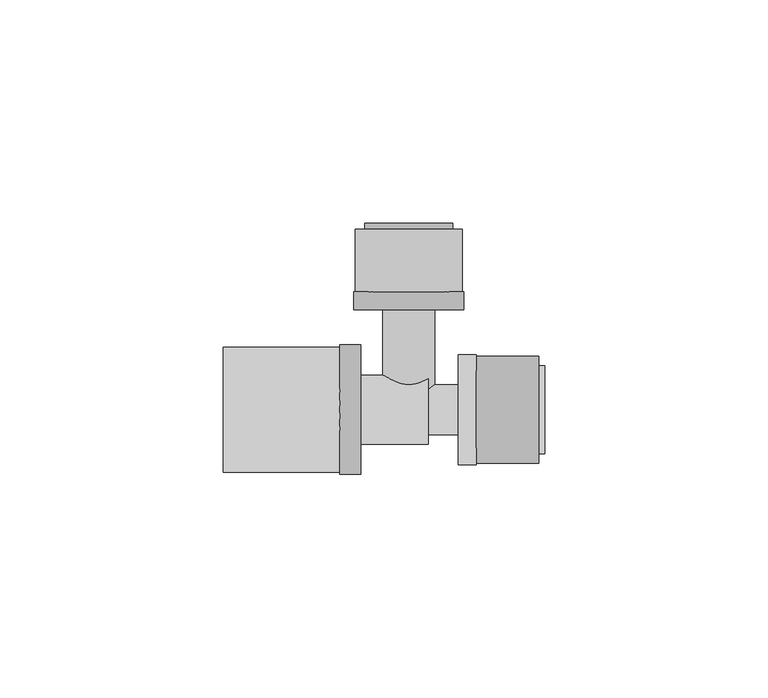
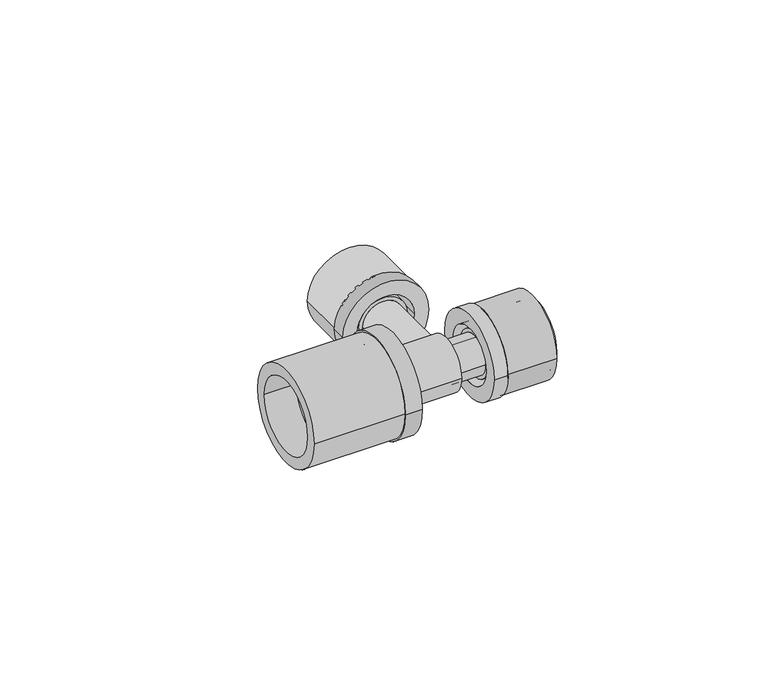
"""IFC4 building model written with IfcOpenShell, lengths in millimetres: pipe fitting geometry, FASTLOC_T-piece_LX : FSL T-Piece LX CZ."""

import ifcopenshell
import ifcopenshell.guid

model = None  # the IFC model being written
_history = None  # IfcOwnerHistory: only IFC2X3 demands one
_inside = {}  # id of a spatial element -> (the spatial element, [elements in it])
_under = {}  # id of a project, library or spatial element -> (it, [spatial elements below it])
_declared = {}  # id of a project -> (the project, [libraries it declares])
_typed = {}  # id of a type object -> (the type object, [elements of that type])
_made_of = {}  # id of a material, layer set ... -> (it, [elements and type objects made of it])


def new_model(schema):
    """Start an empty IFC model of exactly this schema.

    Asked for "IFC4X3", IfcOpenShell would pick the latest addendum, in which some entities
    have other attributes; the version numbers below select the first issue.
    IFC2X3 requires an IfcOwnerHistory on every rooted entity: one is made here for all.
    """
    global model, _history
    if schema == "IFC4X3":
        model = ifcopenshell.file(schema_version=(4, 3, 0, 0))
    else:
        model = ifcopenshell.file(schema=schema)
    _inside.clear()
    _under.clear()
    _declared.clear()
    _typed.clear()
    _made_of.clear()
    _history = None
    if model.schema == "IFC2X3":
        org = make("IfcOrganization", Name="unknown")
        user = make(
            "IfcPersonAndOrganization",
            ThePerson=make("IfcPerson", FamilyName="unknown"),
            TheOrganization=org,
        )
        app = make(
            "IfcApplication",
            ApplicationDeveloper=org,
            Version="unknown",
            ApplicationFullName="unknown",
            ApplicationIdentifier="unknown",
        )
        _history = make(
            "IfcOwnerHistory",
            OwningUser=user,
            OwningApplication=app,
            ChangeAction="ADDED",
            CreationDate=0,
        )
    return model


def make(cls, **values):
    """One entity of the class cls with the attributes given. An attribute that is None is left unset."""
    return model.create_entity(
        cls, **{name: value for name, value in values.items() if value is not None}
    )


def rooted(cls, **values):
    """An entity with a GlobalId (a new one), such as an element, a storey or a relation."""
    return make(cls, GlobalId=ifcopenshell.guid.new(), OwnerHistory=_history, **values)


def si_unit(unit_type, name, prefix=None):
    """IfcSIUnit, for example si_unit("LENGTHUNIT", "METRE", prefix="MILLI")."""
    return make("IfcSIUnit", UnitType=unit_type, Prefix=prefix, Name=name)


def assignment(units):
    """IfcUnitAssignment: the units of a project."""
    return None if units is None else make("IfcUnitAssignment", Units=units)


def point(xyz):
    """IfcCartesianPoint."""
    return None if xyz is None else make("IfcCartesianPoint", Coordinates=xyz)


def direction(xyz):
    """IfcDirection."""
    return None if xyz is None else make("IfcDirection", DirectionRatios=xyz)


def frame(location, z_axis=None, x_axis=None):
    """IfcAxis2Placement3D, a coordinate frame: its origin and axes. An axis left out is left unset."""
    return make(
        "IfcAxis2Placement3D",
        Location=point(location),
        Axis=direction(z_axis),
        RefDirection=direction(x_axis),
    )


def frame_2d(location, x_axis=None):
    """IfcAxis2Placement2D, a coordinate frame in the plane: its origin and x axis."""
    return make(
        "IfcAxis2Placement2D", Location=point(location), RefDirection=direction(x_axis)
    )


def origin():
    """The frame at (0, 0, 0) with its axes left unset."""
    return frame((0.0, 0.0, 0.0))


def origin_2d():
    """The frame at (0, 0) in the plane with its x axis left unset."""
    return frame_2d((0.0, 0.0))


def place(relative_to, where):
    """IfcLocalPlacement: puts the frame where relative to a parent placement (None: the world)."""
    return make(
        "IfcLocalPlacement", PlacementRelTo=relative_to, RelativePlacement=where
    )


def context(
    kind, dimensions, precision=None, world=None, true_north=None, identifier=None
):
    """IfcGeometricRepresentationContext, for example the 3D "Model" context."""
    return make(
        "IfcGeometricRepresentationContext",
        ContextIdentifier=identifier,
        ContextType=kind,
        CoordinateSpaceDimension=dimensions,
        Precision=precision,
        WorldCoordinateSystem=world,
        TrueNorth=true_north,
    )


def project(units=None, contexts=None):
    """IfcProject with its units and contexts."""
    return rooted(
        "IfcProject",
        Name="project",
        RepresentationContexts=contexts,
        UnitsInContext=assignment(units),
    )


def spatial(cls, under=None, at=None, **own):
    """A site, building, storey or space (cls), placed at a placement, below another one or the project."""
    s = rooted(cls, ObjectPlacement=at, **own)
    if under is not None:
        _under.setdefault(under.id(), (under, []))[1].append(s)
    return s


def polyline(points):
    """IfcPolyline through the points."""
    return make("IfcPolyline", Points=[point(p) for p in points])


def circle_curve(where, radius):
    """IfcCircle in the frame where."""
    return make("IfcCircle", Position=where, Radius=radius)


def trimmed(basis, trim1, trim2, sense, master):
    """IfcTrimmedCurve: the piece of a basis curve between two trims."""
    return make(
        "IfcTrimmedCurve",
        BasisCurve=basis,
        Trim1=trim1,
        Trim2=trim2,
        SenseAgreement=sense,
        MasterRepresentation=master,
    )


def segment(curve, same_sense, transition):
    """IfcCompositeCurveSegment."""
    return make(
        "IfcCompositeCurveSegment",
        Transition=transition,
        SameSense=same_sense,
        ParentCurve=curve,
    )


def composite_curve(segments, self_intersect=None):
    """IfcCompositeCurve: segments joined end to end."""
    return make("IfcCompositeCurve", Segments=segments, SelfIntersect=self_intersect)


def outline(outer, holes=None, kind="AREA"):
    """IfcArbitraryClosedProfileDef: a profile drawn as a closed curve; with holes, ...WithVoids."""
    if holes is None:
        return make("IfcArbitraryClosedProfileDef", ProfileType=kind, OuterCurve=outer)
    return make(
        "IfcArbitraryProfileDefWithVoids",
        ProfileType=kind,
        OuterCurve=outer,
        InnerCurves=holes,
    )


def extrude(swept, where, along, depth):
    """IfcExtrudedAreaSolid: the profile swept, set in the frame where, extruded along a direction by depth."""
    return make(
        "IfcExtrudedAreaSolid",
        SweptArea=swept,
        Position=where,
        ExtrudedDirection=direction(along),
        Depth=depth,
    )


def shape(context_of_items, identifier, shape_type, items):
    """IfcShapeRepresentation: the items that make up one representation, for example the "Body"."""
    return make(
        "IfcShapeRepresentation",
        ContextOfItems=context_of_items,
        RepresentationIdentifier=identifier,
        RepresentationType=shape_type,
        Items=items,
    )


def source(mapping_origin, context_of_items, identifier, shape_type, items):
    """IfcRepresentationMap: a shape defined once, which mapped items show again and again."""
    return make(
        "IfcRepresentationMap",
        MappingOrigin=mapping_origin,
        MappedRepresentation=shape(context_of_items, identifier, shape_type, items),
    )


def transform(
    local_origin,
    x_axis=None,
    y_axis=None,
    z_axis=None,
    scale=None,
    scale2=None,
    scale3=None,
    uniform=True,
):
    """IfcCartesianTransformationOperator3D, or its non-uniform kind. x_axis, y_axis, z_axis: its Axis1, 2, 3."""
    if uniform:
        return make(
            "IfcCartesianTransformationOperator3D",
            Axis1=direction(x_axis),
            Axis2=direction(y_axis),
            LocalOrigin=point(local_origin),
            Scale=scale,
            Axis3=direction(z_axis),
        )
    return make(
        "IfcCartesianTransformationOperator3DnonUniform",
        Axis1=direction(x_axis),
        Axis2=direction(y_axis),
        LocalOrigin=point(local_origin),
        Scale=scale,
        Axis3=direction(z_axis),
        Scale2=scale2,
        Scale3=scale3,
    )


def mapped(mapping_source, mapping_target):
    """IfcMappedItem: shows the shape of a source again, moved by a transform."""
    return make(
        "IfcMappedItem", MappingSource=mapping_source, MappingTarget=mapping_target
    )


def made_of(thing, what):
    """Note that an element or type object is made of a material, layer set ...; save() writes the relation."""
    if what is not None:
        _made_of.setdefault(what.id(), (what, []))[1].append(thing)
    return thing


def element(
    cls,
    number,
    at=None,
    inside=None,
    cuts=None,
    type_object=None,
    material=None,
    context=None,
    identifier="Body",
    shape_type=None,
    held_by="IfcProductDefinitionShape",
    body=None,
    shapes=None,
    **own,
):
    """One element of the class cls, such as IfcWall. Its Tag is "e" and its number.

    at: its placement. inside: the storey or other place that contains it. cuts: it is an
    opening in that element (IfcRelVoidsElement). A single representation is given by context,
    identifier, shape_type and body (its items); several are given by shapes. held_by: the class
    of the entity that holds the representations. save() writes the other relations.
    """
    e = rooted(cls, Tag="e%d" % number, ObjectPlacement=at, **own)
    if body is not None:
        shapes = [shape(context, identifier, shape_type, body)]
    if shapes is not None:
        e.Representation = make(held_by, Representations=shapes)
    if inside is not None:
        _inside.setdefault(inside.id(), (inside, []))[1].append(e)
    if cuts is not None:
        rooted(
            "IfcRelVoidsElement", RelatingBuildingElement=cuts, RelatedOpeningElement=e
        )
    if type_object is not None:
        _typed.setdefault(type_object.id(), (type_object, []))[1].append(e)
    return made_of(e, material)


def aggregate(whole, parts):
    """IfcRelAggregates: a whole, such as a stair, and the parts it consists of."""
    return rooted("IfcRelAggregates", RelatingObject=whole, RelatedObjects=parts)


def save(model, path):
    """Write the relations noted so far, then the file.

    IfcRelAggregates (storeys below a building ...), IfcRelContainedInSpatialStructure (elements
    in a storey), IfcRelDefinesByType, IfcRelAssociatesMaterial and IfcRelDeclares: one each for
    every whole, place, type object, material and project.
    """
    for whole, parts in _under.values():
        aggregate(whole, parts)
    for where, things in _inside.values():
        rooted(
            "IfcRelContainedInSpatialStructure",
            RelatedElements=things,
            RelatingStructure=where,
        )
    for kind, things in _typed.values():
        rooted("IfcRelDefinesByType", RelatedObjects=things, RelatingType=kind)
    for what, things in _made_of.values():
        rooted("IfcRelAssociatesMaterial", RelatedObjects=things, RelatingMaterial=what)
    for by, libraries in _declared.values():
        rooted("IfcRelDeclares", RelatingContext=by, RelatedDefinitions=libraries)
    model.write(path)


def plane_surface(at):
    """IfcPlane: the flat surface through the origin of the frame at, square to its z axis."""
    return make("IfcPlane", Position=at)


def cylinder_surface(at, radius):
    """IfcCylindricalSurface: all points at the distance radius from the z axis of the frame at."""
    return make("IfcCylindricalSurface", Position=at, Radius=radius)


def revolved_surface(curve, axis_point, axis_direction):
    """IfcSurfaceOfRevolution: the curve turned about the line through axis_point along axis_direction."""
    return make(
        "IfcSurfaceOfRevolution",
        SweptCurve=make("IfcArbitraryOpenProfileDef", ProfileType="CURVE", Curve=curve),
        AxisPosition=make("IfcAxis1Placement", Location=point(axis_point), Axis=direction(axis_direction)),
    )


def advanced_brep(points, edges, surfaces, faces):
    """IfcAdvancedBrep: a solid bounded by faces that lie on surfaces and meet in shared edges.

    An edge is (start, end): straight between two places in points (the first is 0);
    or (start, end, curve); or (start, end, curve, False) where it runs against its curve.
    A face is (place in surfaces, loops), or (place, loops, False) where it looks against
    its surface's normal. A loop lists edges by number (the first is 1), with a minus sign
    where the edge is run from its end to its start. The first loop is the outer one.
    """
    corners = [point(p) for p in points]
    vertices = [make("IfcVertexPoint", VertexGeometry=c) for c in corners]
    made = []
    for start, end, *more in edges:
        made.append(
            make(
                "IfcEdgeCurve",
                EdgeStart=vertices[start],
                EdgeEnd=vertices[end],
                EdgeGeometry=more[0] if more else make("IfcPolyline", Points=[corners[start], corners[end]]),
                SameSense=more[1] if len(more) > 1 else True,
            )
        )
    hull = []
    for where, loops, *sense in faces:
        bounds = []
        for j, loop in enumerate(loops):
            ring = [make("IfcOrientedEdge", EdgeElement=made[abs(k) - 1], Orientation=k > 0) for k in loop]
            bounds.append(
                make(
                    "IfcFaceOuterBound" if j == 0 else "IfcFaceBound",
                    Bound=make("IfcEdgeLoop", EdgeList=ring),
                    Orientation=True,
                )
            )
        hull.append(make("IfcAdvancedFace", Bounds=bounds, FaceSurface=surfaces[where], SameSense=sense[0] if sense else True))
    return make("IfcAdvancedBrep", Outer=make("IfcClosedShell", CfsFaces=hull))


def pipe_fitting_8fb58d5f(model_context):
    return source(origin(), model_context, "Body", "SolidModel", [
        extrude(outline(composite_curve([segment(trimmed(circle_curve(origin_2d(), 12.0), [point((-12.0, 0.0))], [point((12.0, 0.0))], False, "CARTESIAN"), True, "CONTINUOUS"), segment(trimmed(circle_curve(origin_2d(), 12.0), [point((12.0, 0.0))], [point((-12.0, 0.0))], False, "CARTESIAN"), True, "CONTINUOUS")], self_intersect=False), holes=[composite_curve([segment(trimmed(circle_curve(origin_2d(), 8.85), [point((-8.85, 0.0))], [point((8.85, 0.0))], True, "CARTESIAN"), True, "CONTINUOUS"), segment(trimmed(circle_curve(origin_2d(), 8.85), [point((8.85, 0.0))], [point((-8.85, 0.0))], True, "CARTESIAN"), True, "CONTINUOUS")], self_intersect=False)]), frame((15.1, 0.0, 0.0), z_axis=(1.0, 0.0, 0.0), x_axis=(0.0, 1.0, 0.0)), (0.0, 0.0, 1.0), 14.0),
        advanced_brep(
        [(15.1, 12.35, 0.0), (15.1, -12.35, 0.0), (11.1, -12.35, 0.0), (11.1, 12.35, 0.0), (30.4, 9.85, 0.0), (30.4, -9.85, 0.0), (15.1, -9.85, 0.0), (15.1, 9.85, 0.0), (11.1, 8.15, 0.0), (11.1, -8.15, 0.0), (30.4, -8.15, 0.0), (30.4, 8.15, 0.0)],
        [
            (0, 1, circle_curve(frame((15.1, 0.0, 0.0), z_axis=(-1.0, 0.0, 0.0), x_axis=(0.0, -1.0, 0.0)), 12.35)),
            (1, 2),
            (2, 3, circle_curve(frame((11.1, 0.0, 0.0), z_axis=(1.0, 0.0, 0.0), x_axis=(0.0, -1.0, 0.0)), 12.35)),
            (3, 0),
            (4, 5, circle_curve(frame((30.4, 0.0, 0.0), z_axis=(-1.0, 0.0, 0.0), x_axis=(0.0, -1.0, 0.0)), 9.85)),
            (5, 6),
            (6, 7, circle_curve(frame((15.1, 0.0, 0.0), z_axis=(1.0, 0.0, 0.0), x_axis=(0.0, -1.0, 0.0)), 9.85)),
            (7, 4),
            (8, 9, circle_curve(frame((11.1, 0.0, 0.0), z_axis=(-1.0, 0.0, 0.0), x_axis=(0.0, -1.0, 0.0)), 8.15)),
            (9, 10),
            (10, 11, circle_curve(frame((30.4, 0.0, 0.0), z_axis=(1.0, 0.0, 0.0), x_axis=(0.0, -1.0, 0.0)), 8.15)),
            (11, 8),
            (1, 0, circle_curve(frame((15.1, 0.0, 0.0), z_axis=(-1.0, 0.0, 0.0), x_axis=(0.0, 1.0, 0.0)), 12.35)),
            (3, 2, circle_curve(frame((11.1, 0.0, 0.0), z_axis=(1.0, 0.0, 0.0), x_axis=(0.0, 1.0, 0.0)), 12.35)),
            (6, 7, circle_curve(frame((15.1, 0.0, 0.0), z_axis=(-1.0, 0.0, 0.0), x_axis=(0.0, 1.0, 0.0)), 9.85)),
            (5, 4, circle_curve(frame((30.4, 0.0, 0.0), z_axis=(-1.0, 0.0, 0.0), x_axis=(0.0, 1.0, 0.0)), 9.85)),
            (10, 11, circle_curve(frame((30.4, 0.0, 0.0), z_axis=(-1.0, 0.0, 0.0), x_axis=(0.0, 1.0, 0.0)), 8.15)),
            (9, 8, circle_curve(frame((11.1, 0.0, 0.0), z_axis=(-1.0, 0.0, 0.0), x_axis=(0.0, 1.0, 0.0)), 8.15)),
        ],
        [
            cylinder_surface(frame((11.1, 0.0, 0.0), z_axis=(1.0, 0.0, 0.0), x_axis=(0.0, -1.0, 0.0)), 12.35),
            cylinder_surface(frame((11.1, 0.0, 0.0), z_axis=(1.0, 0.0, 0.0), x_axis=(0.0, -1.0, 0.0)), 9.85),
            revolved_surface(polyline([(30.4, -8.15, 0.0), (11.1, -8.15, 0.0)]), (11.1, 0.0, 0.0), (1.0, 0.0, 0.0)),
            cylinder_surface(frame((11.1, 0.0, 0.0), z_axis=(1.0, 0.0, 0.0), x_axis=(0.0, 1.0, 0.0)), 12.35),
            plane_surface(frame((15.1, 0.0, 0.0), z_axis=(1.0, 0.0, 0.0), x_axis=(0.0, 1.0, 0.0))),
            cylinder_surface(frame((11.1, 0.0, 0.0), z_axis=(1.0, 0.0, 0.0), x_axis=(0.0, 1.0, 0.0)), 9.85),
            plane_surface(frame((30.4, 0.0, 0.0), z_axis=(1.0, 0.0, 0.0), x_axis=(0.0, 1.0, 0.0))),
            revolved_surface(polyline([(30.4, 8.15, 0.0), (11.1, 8.15, 0.0)]), (11.1, 0.0, 0.0), (1.0, 0.0, 0.0)),
            plane_surface(frame((11.1, 0.0, 0.0), z_axis=(-1.0, 0.0, 0.0), x_axis=(0.0, 1.0, 0.0))),
        ],
        [
            (0, [[1, 2, 3, 4]]),
            (1, [[5, 6, 7, 8]]),
            (2, [[9, 10, 11, 12]]),
            (3, [[13, -4, 14, -2]]),
            (4, [[-13, -1], [15, -7]]),
            (5, [[16, -8, -15, -6]]),
            (6, [[-16, -5], [17, -11]]),
            (7, [[18, -12, -17, -10]]),
            (8, [[-14, -3], [-18, -9]]),
        ],
    ),
        extrude(outline(composite_curve([segment(trimmed(circle_curve(origin_2d(), 14.0), [point((14.0, 0.0))], [point((-14.0, 0.0))], False, "CARTESIAN"), True, "CONTINUOUS"), segment(trimmed(circle_curve(origin_2d(), 14.0), [point((-14.0, 0.0))], [point((14.0, 0.0))], False, "CARTESIAN"), True, "CONTINUOUS")], self_intersect=False), holes=[composite_curve([segment(trimmed(circle_curve(origin_2d(), 10.7), [point((10.7, 0.0))], [point((-10.7, 0.0))], True, "CARTESIAN"), True, "CONTINUOUS"), segment(trimmed(circle_curve(origin_2d(), 10.7), [point((-10.7, 0.0))], [point((10.7, 0.0))], True, "CARTESIAN"), True, "CONTINUOUS")], self_intersect=False)]), frame((-41.5, 0.0, 0.0), z_axis=(1.0, 0.0, 0.0), x_axis=(0.0, 1.0, 0.0)), (0.0, 0.0, 1.0), 26.0),
        advanced_brep(
        [(-15.5, -14.5, 0.0), (-15.5, 14.5, 0.0), (-10.8, 14.5, 0.0), (-10.8, -14.5, 0.0), (-32.5, -11.85, 0.0), (-32.5, 11.85, 0.0), (-15.5, 11.85, 0.0), (-15.5, -11.85, 0.0), (-10.8, -10.15, 0.0), (-10.8, 10.15, 0.0), (-32.5, 10.15, 0.0), (-32.5, -10.15, 0.0)],
        [
            (0, 1, circle_curve(frame((-15.5, 0.0, 0.0), z_axis=(1.0, 0.0, 0.0), x_axis=(0.0, 1.0, 0.0)), 14.5)),
            (1, 2),
            (2, 3, circle_curve(frame((-10.8, 0.0, 0.0), z_axis=(-1.0, 0.0, 0.0), x_axis=(0.0, 1.0, 0.0)), 14.5)),
            (3, 0),
            (4, 5, circle_curve(frame((-32.5, 0.0, 0.0), z_axis=(1.0, 0.0, 0.0), x_axis=(0.0, 1.0, 0.0)), 11.85)),
            (5, 6),
            (6, 7, circle_curve(frame((-15.5, 0.0, 0.0), z_axis=(-1.0, 0.0, 0.0), x_axis=(0.0, 1.0, 0.0)), 11.85)),
            (7, 4),
            (8, 9, circle_curve(frame((-10.8, 0.0, 0.0), z_axis=(1.0, 0.0, 0.0), x_axis=(0.0, 1.0, 0.0)), 10.15)),
            (9, 10),
            (10, 11, circle_curve(frame((-32.5, 0.0, 0.0), z_axis=(-1.0, 0.0, 0.0), x_axis=(0.0, 1.0, 0.0)), 10.15)),
            (11, 8),
            (1, 0, circle_curve(frame((-15.5, 0.0, 0.0), z_axis=(1.0, 0.0, 0.0), x_axis=(0.0, -1.0, 0.0)), 14.5)),
            (3, 2, circle_curve(frame((-10.8, 0.0, 0.0), z_axis=(-1.0, 0.0, 0.0), x_axis=(0.0, -1.0, 0.0)), 14.5)),
            (6, 7, circle_curve(frame((-15.5, 0.0, 0.0), z_axis=(1.0, 0.0, 0.0), x_axis=(0.0, -1.0, 0.0)), 11.85)),
            (5, 4, circle_curve(frame((-32.5, 0.0, 0.0), z_axis=(1.0, 0.0, 0.0), x_axis=(0.0, -1.0, 0.0)), 11.85)),
            (10, 11, circle_curve(frame((-32.5, 0.0, 0.0), z_axis=(1.0, 0.0, 0.0), x_axis=(0.0, -1.0, 0.0)), 10.15)),
            (9, 8, circle_curve(frame((-10.8, 0.0, 0.0), z_axis=(1.0, 0.0, 0.0), x_axis=(0.0, -1.0, 0.0)), 10.15)),
        ],
        [
            cylinder_surface(frame((-10.8, 0.0, 0.0), z_axis=(-1.0, 0.0, 0.0), x_axis=(0.0, 1.0, 0.0)), 14.5),
            cylinder_surface(frame((-10.8, 0.0, 0.0), z_axis=(-1.0, 0.0, 0.0), x_axis=(0.0, 1.0, 0.0)), 11.85),
            revolved_surface(polyline([(-32.5, 10.15, 0.0), (-10.8, 10.15, 0.0)]), (-10.8, 0.0, 0.0), (-1.0, 0.0, 0.0)),
            cylinder_surface(frame((-10.8, 0.0, 0.0), z_axis=(-1.0, 0.0, 0.0), x_axis=(0.0, -1.0, 0.0)), 14.5),
            plane_surface(frame((-15.5, 0.0, 0.0), z_axis=(-1.0, 0.0, 0.0), x_axis=(0.0, -1.0, 0.0))),
            cylinder_surface(frame((-10.8, 0.0, 0.0), z_axis=(-1.0, 0.0, 0.0), x_axis=(0.0, -1.0, 0.0)), 11.85),
            plane_surface(frame((-32.5, 0.0, 0.0), z_axis=(-1.0, 0.0, 0.0), x_axis=(0.0, -1.0, 0.0))),
            revolved_surface(polyline([(-32.5, -10.15, 0.0), (-10.8, -10.15, 0.0)]), (-10.8, 0.0, 0.0), (-1.0, 0.0, 0.0)),
            plane_surface(frame((-10.8, 0.0, 0.0), z_axis=(1.0, 0.0, 0.0), x_axis=(0.0, -1.0, 0.0))),
        ],
        [
            (0, [[1, 2, 3, 4]]),
            (1, [[5, 6, 7, 8]]),
            (2, [[9, 10, 11, 12]]),
            (3, [[13, -4, 14, -2]]),
            (4, [[-13, -1], [15, -7]]),
            (5, [[16, -8, -15, -6]]),
            (6, [[-16, -5], [17, -11]]),
            (7, [[18, -12, -17, -10]]),
            (8, [[-14, -3], [-18, -9]]),
        ],
    ),
        extrude(outline(composite_curve([segment(trimmed(circle_curve(origin_2d(), 12.0), [point((0.0, 12.0))], [point((0.0, -12.0))], False, "CARTESIAN"), True, "CONTINUOUS"), segment(trimmed(circle_curve(origin_2d(), 12.0), [point((0.0, -12.0))], [point((0.0, 12.0))], False, "CARTESIAN"), True, "CONTINUOUS")], self_intersect=False), holes=[composite_curve([segment(trimmed(circle_curve(origin_2d(), 8.85), [point((0.0, 8.85))], [point((0.0, -8.85))], True, "CARTESIAN"), True, "CONTINUOUS"), segment(trimmed(circle_curve(origin_2d(), 8.85), [point((0.0, -8.85))], [point((0.0, 8.85))], True, "CARTESIAN"), True, "CONTINUOUS")], self_intersect=False)]), frame((0.0, 26.4, 0.0), z_axis=(0.0, 1.0, 0.0), x_axis=(0.0, 0.0, 1.0)), (0.0, 0.0, 1.0), 14.0),
        advanced_brep(
        [(-12.35, 26.4, 0.0), (12.35, 26.4, 0.0), (12.35, 22.4, 0.0), (-12.35, 22.4, 0.0), (-9.85, 41.7, 0.0), (9.85, 41.7, 0.0), (9.85, 26.4, 0.0), (-9.85, 26.4, 0.0), (-8.15, 22.4, 0.0), (8.15, 22.4, 0.0), (8.15, 41.7, 0.0), (-8.15, 41.7, 0.0)],
        [
            (0, 1, circle_curve(frame((0.0, 26.4, 0.0), z_axis=(0.0, -1.0, 0.0), x_axis=(1.0, 0.0, 0.0)), 12.35)),
            (1, 2),
            (2, 3, circle_curve(frame((0.0, 22.4, 0.0), z_axis=(0.0, 1.0, 0.0), x_axis=(1.0, 0.0, 0.0)), 12.35)),
            (3, 0),
            (4, 5, circle_curve(frame((0.0, 41.7, 0.0), z_axis=(0.0, -1.0, 0.0), x_axis=(1.0, 0.0, 0.0)), 9.85)),
            (5, 6),
            (6, 7, circle_curve(frame((0.0, 26.4, 0.0), z_axis=(0.0, 1.0, 0.0), x_axis=(1.0, 0.0, 0.0)), 9.85)),
            (7, 4),
            (8, 9, circle_curve(frame((0.0, 22.4, 0.0), z_axis=(0.0, -1.0, 0.0), x_axis=(1.0, 0.0, 0.0)), 8.15)),
            (9, 10),
            (10, 11, circle_curve(frame((0.0, 41.7, 0.0), z_axis=(0.0, 1.0, 0.0), x_axis=(1.0, 0.0, 0.0)), 8.15)),
            (11, 8),
            (1, 0, circle_curve(frame((0.0, 26.4, 0.0), z_axis=(0.0, -1.0, 0.0), x_axis=(-1.0, 0.0, 0.0)), 12.35)),
            (3, 2, circle_curve(frame((0.0, 22.4, 0.0), z_axis=(0.0, 1.0, 0.0), x_axis=(-1.0, 0.0, 0.0)), 12.35)),
            (6, 7, circle_curve(frame((0.0, 26.4, 0.0), z_axis=(0.0, -1.0, 0.0), x_axis=(-1.0, 0.0, 0.0)), 9.85)),
            (5, 4, circle_curve(frame((0.0, 41.7, 0.0), z_axis=(0.0, -1.0, 0.0), x_axis=(-1.0, 0.0, 0.0)), 9.85)),
            (10, 11, circle_curve(frame((0.0, 41.7, 0.0), z_axis=(0.0, -1.0, 0.0), x_axis=(-1.0, 0.0, 0.0)), 8.15)),
            (9, 8, circle_curve(frame((0.0, 22.4, 0.0), z_axis=(0.0, -1.0, 0.0), x_axis=(-1.0, 0.0, 0.0)), 8.15)),
        ],
        [
            cylinder_surface(frame((0.0, 22.4, 0.0), z_axis=(0.0, 1.0, 0.0), x_axis=(1.0, 0.0, 0.0)), 12.35),
            cylinder_surface(frame((0.0, 22.4, 0.0), z_axis=(0.0, 1.0, 0.0), x_axis=(1.0, 0.0, 0.0)), 9.85),
            revolved_surface(polyline([(8.15, 41.7, 0.0), (8.15, 22.4, 0.0)]), (0.0, 22.4, 0.0), (0.0, 1.0, 0.0)),
            cylinder_surface(frame((0.0, 22.4, 0.0), z_axis=(0.0, 1.0, 0.0), x_axis=(-1.0, 0.0, 0.0)), 12.35),
            plane_surface(frame((0.0, 26.4, 0.0), z_axis=(0.0, 1.0, 0.0), x_axis=(-1.0, 0.0, 0.0))),
            cylinder_surface(frame((0.0, 22.4, 0.0), z_axis=(0.0, 1.0, 0.0), x_axis=(-1.0, 0.0, 0.0)), 9.85),
            plane_surface(frame((0.0, 41.7, 0.0), z_axis=(0.0, 1.0, 0.0), x_axis=(-1.0, 0.0, 0.0))),
            revolved_surface(polyline([(-8.15, 41.7, 0.0), (-8.15, 22.4, 0.0)]), (0.0, 22.4, 0.0), (0.0, 1.0, 0.0)),
            plane_surface(frame((0.0, 22.4, 0.0), z_axis=(0.0, -1.0, 0.0), x_axis=(-1.0, 0.0, 0.0))),
        ],
        [
            (0, [[1, 2, 3, 4]]),
            (1, [[5, 6, 7, 8]]),
            (2, [[9, 10, 11, 12]]),
            (3, [[13, -4, 14, -2]]),
            (4, [[-13, -1], [15, -7]]),
            (5, [[16, -8, -15, -6]]),
            (6, [[-16, -5], [17, -11]]),
            (7, [[18, -12, -17, -10]]),
            (8, [[-14, -3], [-18, -9]]),
        ],
    ),
        advanced_brep(
        [(12.39, 5.6, 0.0), (12.39, -5.6, 0.0), (4.35, -5.6, 0.0), (4.35, 5.6, 0.0), (15.1, 6.7, 0.0), (15.1, -6.7, 0.0), (12.39, -6.7, 0.0), (12.39, 6.7, 0.0), (30.1, 5.6, 0.0), (30.1, -5.6, 0.0), (15.1, -5.6, 0.0), (15.1, 5.6, 0.0), (2.5, 3.75, 0.0), (2.5, -3.75, 0.0), (30.1, -3.75, 0.0), (30.1, 3.75, 0.0), (-32.9, 5.75, 0.0), (-32.9, -5.75, 0.0), (2.5, -5.75, 0.0), (2.5, 5.75, 0.0), (-15.5, 7.75, 0.0), (-15.5, -7.75, 0.0), (-32.9, -7.75, 0.0), (-32.9, 7.75, 0.0), (-12.83, 8.8, 0.0), (-12.83, -8.8, 0.0), (-15.5, -8.8, 0.0), (-15.5, 8.8, 0.0), (4.35, 7.75, 0.0), (4.35, -7.75, 0.0), (-12.83, -7.75, 0.0), (-12.83, 7.75, 0.0)],
        [
            (0, 1, circle_curve(frame((12.39, 0.0, 0.0), z_axis=(-1.0, 0.0, 0.0), x_axis=(0.0, -1.0, 0.0)), 5.6)),
            (1, 2),
            (2, 3, circle_curve(frame((4.35, 0.0, 0.0), z_axis=(1.0, 0.0, 0.0), x_axis=(0.0, -1.0, 0.0)), 5.6)),
            (3, 0),
            (4, 5, circle_curve(frame((15.1, 0.0, 0.0), z_axis=(-1.0, 0.0, 0.0), x_axis=(0.0, -1.0, 0.0)), 6.7)),
            (5, 6),
            (6, 7, circle_curve(frame((12.39, 0.0, 0.0), z_axis=(1.0, 0.0, 0.0), x_axis=(0.0, -1.0, 0.0)), 6.7)),
            (7, 4),
            (8, 9, circle_curve(frame((30.1, 0.0, 0.0), z_axis=(-1.0, 0.0, 0.0), x_axis=(0.0, -1.0, 0.0)), 5.6)),
            (9, 10),
            (10, 11, circle_curve(frame((15.1, 0.0, 0.0), z_axis=(1.0, 0.0, 0.0), x_axis=(0.0, -1.0, 0.0)), 5.6)),
            (11, 8),
            (12, 13, circle_curve(frame((2.5, 0.0, 0.0), z_axis=(-1.0, 0.0, 0.0), x_axis=(0.0, -1.0, 0.0)), 3.75)),
            (13, 14),
            (14, 15, circle_curve(frame((30.1, 0.0, 0.0), z_axis=(1.0, 0.0, 0.0), x_axis=(0.0, -1.0, 0.0)), 3.75)),
            (15, 12),
            (16, 17, circle_curve(frame((-32.9, 0.0, 0.0), z_axis=(-1.0, 0.0, 0.0), x_axis=(0.0, -1.0, 0.0)), 5.75)),
            (17, 18),
            (18, 19, circle_curve(frame((2.5, 0.0, 0.0), z_axis=(1.0, 0.0, 0.0), x_axis=(0.0, -1.0, 0.0)), 5.75)),
            (19, 16),
            (20, 21, circle_curve(frame((-15.5, 0.0, 0.0), z_axis=(-1.0, 0.0, 0.0), x_axis=(0.0, -1.0, 0.0)), 7.75)),
            (21, 22),
            (22, 23, circle_curve(frame((-32.9, 0.0, 0.0), z_axis=(1.0, 0.0, 0.0), x_axis=(0.0, -1.0, 0.0)), 7.75)),
            (23, 20),
            (24, 25, circle_curve(frame((-12.83, 0.0, 0.0), z_axis=(-1.0, 0.0, 0.0), x_axis=(0.0, -1.0, 0.0)), 8.8)),
            (25, 26),
            (26, 27, circle_curve(frame((-15.5, 0.0, 0.0), z_axis=(1.0, 0.0, 0.0), x_axis=(0.0, -1.0, 0.0)), 8.8)),
            (27, 24),
            (28, 29, circle_curve(frame((4.35, 0.0, 0.0), z_axis=(-1.0, 0.0, 0.0), x_axis=(0.0, -1.0, 0.0)), 7.75)),
            (29, 30),
            (30, 31, circle_curve(frame((-12.83, 0.0, 0.0), z_axis=(1.0, 0.0, 0.0), x_axis=(0.0, -1.0, 0.0)), 7.75)),
            (31, 28),
            (28, 29, circle_curve(frame((4.35, 0.0, 0.0), z_axis=(1.0, 0.0, 0.0), x_axis=(0.0, 1.0, 0.0)), 7.75)),
            (2, 3, circle_curve(frame((4.35, 0.0, 0.0), z_axis=(-1.0, 0.0, 0.0), x_axis=(0.0, 1.0, 0.0)), 5.6)),
            (1, 0, circle_curve(frame((12.39, 0.0, 0.0), z_axis=(-1.0, 0.0, 0.0), x_axis=(0.0, 1.0, 0.0)), 5.6)),
            (6, 7, circle_curve(frame((12.39, 0.0, 0.0), z_axis=(-1.0, 0.0, 0.0), x_axis=(0.0, 1.0, 0.0)), 6.7)),
            (5, 4, circle_curve(frame((15.1, 0.0, 0.0), z_axis=(-1.0, 0.0, 0.0), x_axis=(0.0, 1.0, 0.0)), 6.7)),
            (10, 11, circle_curve(frame((15.1, 0.0, 0.0), z_axis=(-1.0, 0.0, 0.0), x_axis=(0.0, 1.0, 0.0)), 5.6)),
            (9, 8, circle_curve(frame((30.1, 0.0, 0.0), z_axis=(-1.0, 0.0, 0.0), x_axis=(0.0, 1.0, 0.0)), 5.6)),
            (14, 15, circle_curve(frame((30.1, 0.0, 0.0), z_axis=(-1.0, 0.0, 0.0), x_axis=(0.0, 1.0, 0.0)), 3.75)),
            (13, 12, circle_curve(frame((2.5, 0.0, 0.0), z_axis=(-1.0, 0.0, 0.0), x_axis=(0.0, 1.0, 0.0)), 3.75)),
            (18, 19, circle_curve(frame((2.5, 0.0, 0.0), z_axis=(-1.0, 0.0, 0.0), x_axis=(0.0, 1.0, 0.0)), 5.75)),
            (17, 16, circle_curve(frame((-32.9, 0.0, 0.0), z_axis=(-1.0, 0.0, 0.0), x_axis=(0.0, 1.0, 0.0)), 5.75)),
            (22, 23, circle_curve(frame((-32.9, 0.0, 0.0), z_axis=(-1.0, 0.0, 0.0), x_axis=(0.0, 1.0, 0.0)), 7.75)),
            (21, 20, circle_curve(frame((-15.5, 0.0, 0.0), z_axis=(-1.0, 0.0, 0.0), x_axis=(0.0, 1.0, 0.0)), 7.75)),
            (26, 27, circle_curve(frame((-15.5, 0.0, 0.0), z_axis=(-1.0, 0.0, 0.0), x_axis=(0.0, 1.0, 0.0)), 8.8)),
            (25, 24, circle_curve(frame((-12.83, 0.0, 0.0), z_axis=(-1.0, 0.0, 0.0), x_axis=(0.0, 1.0, 0.0)), 8.8)),
            (30, 31, circle_curve(frame((-12.83, 0.0, 0.0), z_axis=(-1.0, 0.0, 0.0), x_axis=(0.0, 1.0, 0.0)), 7.75)),
        ],
        [
            cylinder_surface(frame((0.0, 0.0, 0.0), z_axis=(1.0, 0.0, 0.0), x_axis=(0.0, -1.0, 0.0)), 5.6),
            cylinder_surface(frame((0.0, 0.0, 0.0), z_axis=(1.0, 0.0, 0.0), x_axis=(0.0, -1.0, 0.0)), 6.7),
            revolved_surface(polyline([(30.1, -3.75, 0.0), (2.5, -3.75, 0.0)]), (0.0, 0.0, 0.0), (1.0, 0.0, 0.0)),
            revolved_surface(polyline([(2.5, -5.75, 0.0), (-32.9, -5.75, 0.0)]), (0.0, 0.0, 0.0), (1.0, 0.0, 0.0)),
            cylinder_surface(frame((0.0, 0.0, 0.0), z_axis=(1.0, 0.0, 0.0), x_axis=(0.0, -1.0, 0.0)), 7.75),
            cylinder_surface(frame((0.0, 0.0, 0.0), z_axis=(1.0, 0.0, 0.0), x_axis=(0.0, -1.0, 0.0)), 8.8),
            plane_surface(frame((4.35, 0.0, 0.0), z_axis=(1.0, 0.0, 0.0), x_axis=(0.0, 1.0, 0.0))),
            cylinder_surface(frame((0.0, 0.0, 0.0), z_axis=(1.0, 0.0, 0.0), x_axis=(0.0, 1.0, 0.0)), 5.6),
            plane_surface(frame((12.39, 0.0, 0.0), z_axis=(-1.0, 0.0, 0.0), x_axis=(0.0, 1.0, 0.0))),
            cylinder_surface(frame((0.0, 0.0, 0.0), z_axis=(1.0, 0.0, 0.0), x_axis=(0.0, 1.0, 0.0)), 6.7),
            plane_surface(frame((15.1, 0.0, 0.0), z_axis=(1.0, 0.0, 0.0), x_axis=(0.0, 1.0, 0.0))),
            plane_surface(frame((30.1, 0.0, 0.0), z_axis=(1.0, 0.0, 0.0), x_axis=(0.0, 1.0, 0.0))),
            revolved_surface(polyline([(30.1, 3.75, 0.0), (2.5, 3.75, 0.0)]), (0.0, 0.0, 0.0), (1.0, 0.0, 0.0)),
            plane_surface(frame((2.5, 0.0, 0.0), z_axis=(-1.0, 0.0, 0.0), x_axis=(0.0, 1.0, 0.0))),
            revolved_surface(polyline([(2.5, 5.75, 0.0), (-32.9, 5.75, 0.0)]), (0.0, 0.0, 0.0), (1.0, 0.0, 0.0)),
            plane_surface(frame((-32.9, 0.0, 0.0), z_axis=(-1.0, 0.0, 0.0), x_axis=(0.0, 1.0, 0.0))),
            cylinder_surface(frame((0.0, 0.0, 0.0), z_axis=(1.0, 0.0, 0.0), x_axis=(0.0, 1.0, 0.0)), 7.75),
            plane_surface(frame((-15.5, 0.0, 0.0), z_axis=(-1.0, 0.0, 0.0), x_axis=(0.0, 1.0, 0.0))),
            cylinder_surface(frame((0.0, 0.0, 0.0), z_axis=(1.0, 0.0, 0.0), x_axis=(0.0, 1.0, 0.0)), 8.8),
            plane_surface(frame((-12.83, 0.0, 0.0), z_axis=(1.0, 0.0, 0.0), x_axis=(0.0, 1.0, 0.0))),
        ],
        [
            (0, [[1, 2, 3, 4]]),
            (1, [[5, 6, 7, 8]]),
            (0, [[9, 10, 11, 12]]),
            (2, [[13, 14, 15, 16]]),
            (3, [[17, 18, 19, 20]]),
            (4, [[21, 22, 23, 24]]),
            (5, [[25, 26, 27, 28]]),
            (4, [[29, 30, 31, 32]]),
            (6, [[33, -29], [34, -3]]),
            (7, [[35, -4, -34, -2]]),
            (8, [[36, -7], [-35, -1]]),
            (9, [[37, -8, -36, -6]]),
            (10, [[-37, -5], [38, -11]]),
            (7, [[39, -12, -38, -10]]),
            (11, [[-39, -9], [40, -15]]),
            (12, [[41, -16, -40, -14]]),
            (13, [[42, -19], [-41, -13]]),
            (14, [[43, -20, -42, -18]]),
            (15, [[44, -23], [-43, -17]]),
            (16, [[45, -24, -44, -22]]),
            (17, [[46, -27], [-45, -21]]),
            (18, [[47, -28, -46, -26]]),
            (19, [[-47, -25], [48, -31]]),
            (16, [[-33, -32, -48, -30]]),
        ],
    ),
        advanced_brep(
        [(3.95, 41.4, 0.0), (-3.95, 41.4, 0.0), (-3.95, 0.0, 0.0), (3.95, 0.0, 0.0), (5.8, 0.0, 0.0), (-5.8, 0.0, 0.0), (-5.8, 23.69, 0.0), (5.8, 23.69, 0.0), (6.9, 23.69, 0.0), (-6.9, 23.69, 0.0), (-6.9, 26.4, 0.0), (6.9, 26.4, 0.0), (5.8, 26.4, 0.0), (-5.8, 26.4, 0.0), (-5.8, 41.4, 0.0), (5.8, 41.4, 0.0)],
        [
            (0, 1, circle_curve(frame((0.0, 41.4, 0.0), z_axis=(0.0, 1.0, 0.0), x_axis=(-1.0, 0.0, 0.0)), 3.95)),
            (1, 2),
            (2, 3, circle_curve(frame((0.0, 0.0, 0.0), z_axis=(0.0, -1.0, 0.0), x_axis=(-1.0, 0.0, 0.0)), 3.95)),
            (3, 0),
            (4, 5, circle_curve(frame((0.0, 0.0, 0.0), z_axis=(0.0, 1.0, 0.0), x_axis=(-1.0, 0.0, 0.0)), 5.8)),
            (5, 6),
            (6, 7, circle_curve(frame((0.0, 23.69, 0.0), z_axis=(0.0, -1.0, 0.0), x_axis=(-1.0, 0.0, 0.0)), 5.8)),
            (7, 4),
            (8, 9, circle_curve(frame((0.0, 23.69, 0.0), z_axis=(0.0, 1.0, 0.0), x_axis=(-1.0, 0.0, 0.0)), 6.9)),
            (9, 10),
            (10, 11, circle_curve(frame((0.0, 26.4, 0.0), z_axis=(0.0, -1.0, 0.0), x_axis=(-1.0, 0.0, 0.0)), 6.9)),
            (11, 8),
            (12, 13, circle_curve(frame((0.0, 26.4, 0.0), z_axis=(0.0, 1.0, 0.0), x_axis=(-1.0, 0.0, 0.0)), 5.8)),
            (13, 14),
            (14, 15, circle_curve(frame((0.0, 41.4, 0.0), z_axis=(0.0, -1.0, 0.0), x_axis=(-1.0, 0.0, 0.0)), 5.8)),
            (15, 12),
            (1, 0, circle_curve(frame((0.0, 41.4, 0.0), z_axis=(0.0, 1.0, 0.0), x_axis=(1.0, 0.0, 0.0)), 3.95)),
            (3, 2, circle_curve(frame((0.0, 0.0, 0.0), z_axis=(0.0, -1.0, 0.0), x_axis=(1.0, 0.0, 0.0)), 3.95)),
            (4, 5, circle_curve(frame((0.0, 0.0, 0.0), z_axis=(0.0, -1.0, 0.0), x_axis=(1.0, 0.0, 0.0)), 5.8)),
            (7, 6, circle_curve(frame((0.0, 23.69, 0.0), z_axis=(0.0, -1.0, 0.0), x_axis=(1.0, 0.0, 0.0)), 5.8)),
            (8, 9, circle_curve(frame((0.0, 23.69, 0.0), z_axis=(0.0, -1.0, 0.0), x_axis=(1.0, 0.0, 0.0)), 6.9)),
            (11, 10, circle_curve(frame((0.0, 26.4, 0.0), z_axis=(0.0, -1.0, 0.0), x_axis=(1.0, 0.0, 0.0)), 6.9)),
            (12, 13, circle_curve(frame((0.0, 26.4, 0.0), z_axis=(0.0, -1.0, 0.0), x_axis=(1.0, 0.0, 0.0)), 5.8)),
            (15, 14, circle_curve(frame((0.0, 41.4, 0.0), z_axis=(0.0, -1.0, 0.0), x_axis=(1.0, 0.0, 0.0)), 5.8)),
        ],
        [
            revolved_surface(polyline([(-3.95, 0.0, 0.0), (-3.95, 41.4, 0.0)]), (0.0, 0.0, 0.0), (0.0, -1.0, 0.0)),
            cylinder_surface(frame((0.0, 0.0, 0.0), z_axis=(0.0, -1.0, 0.0), x_axis=(-1.0, 0.0, 0.0)), 5.8),
            cylinder_surface(frame((0.0, 0.0, 0.0), z_axis=(0.0, -1.0, 0.0), x_axis=(-1.0, 0.0, 0.0)), 6.9),
            revolved_surface(polyline([(3.95, 0.0, 0.0), (3.95, 41.4, 0.0)]), (0.0, 0.0, 0.0), (0.0, -1.0, 0.0)),
            plane_surface(frame((0.0, 0.0, 0.0), z_axis=(0.0, -1.0, 0.0), x_axis=(1.0, 0.0, 0.0))),
            cylinder_surface(frame((0.0, 0.0, 0.0), z_axis=(0.0, -1.0, 0.0), x_axis=(1.0, 0.0, 0.0)), 5.8),
            plane_surface(frame((0.0, 23.69, 0.0), z_axis=(0.0, -1.0, 0.0), x_axis=(1.0, 0.0, 0.0))),
            cylinder_surface(frame((0.0, 0.0, 0.0), z_axis=(0.0, -1.0, 0.0), x_axis=(1.0, 0.0, 0.0)), 6.9),
            plane_surface(frame((0.0, 26.4, 0.0), z_axis=(0.0, 1.0, 0.0), x_axis=(1.0, 0.0, 0.0))),
            plane_surface(frame((0.0, 41.4, 0.0), z_axis=(0.0, 1.0, 0.0), x_axis=(1.0, 0.0, 0.0))),
        ],
        [
            (0, [[1, 2, 3, 4]]),
            (1, [[5, 6, 7, 8]]),
            (2, [[9, 10, 11, 12]]),
            (1, [[13, 14, 15, 16]]),
            (3, [[17, -4, 18, -2]]),
            (4, [[19, -5], [-18, -3]]),
            (5, [[-19, -8, 20, -6]]),
            (6, [[21, -9], [-20, -7]]),
            (7, [[-21, -12, 22, -10]]),
            (8, [[-22, -11], [23, -13]]),
            (5, [[-23, -16, 24, -14]]),
            (9, [[-24, -15], [-17, -1]]),
        ],
    ),
    ])


if __name__ == "__main__":
    model = new_model("IFC4")
    model_context = context("Model", 3, world=origin())
    ifc_project = project(units=[si_unit("LENGTHUNIT", "METRE", prefix="MILLI")], contexts=[model_context])
    site = spatial("IfcSite", under=ifc_project)
    building = spatial("IfcBuilding", under=site)
    placement = place(None, origin())
    pipe_fitting_shape = pipe_fitting_8fb58d5f(model_context)
    element("IfcPipeFitting", 1, ObjectType="FASTLOC_T-piece_LX : FSL T-Piece LX CZ", at=placement, inside=building, context=model_context, shape_type="MappedRepresentation", body=[
        mapped(pipe_fitting_shape, transform((0.0, 0.0, 0.0), x_axis=(1.0, 0.0, 0.0), y_axis=(0.0, 1.0, 0.0), z_axis=(0.0, 0.0, 1.0))),
    ])
    save(model, "model.ifc")
